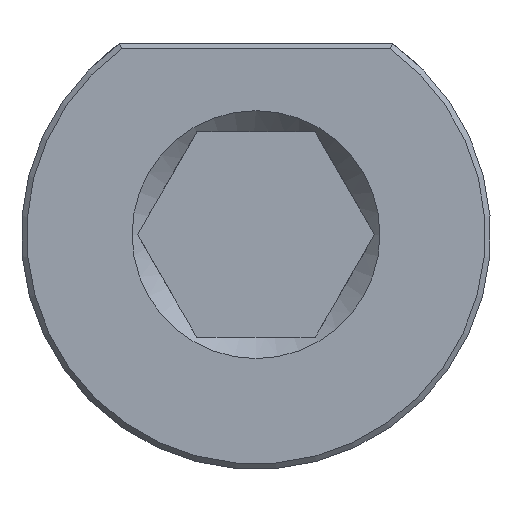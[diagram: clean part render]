
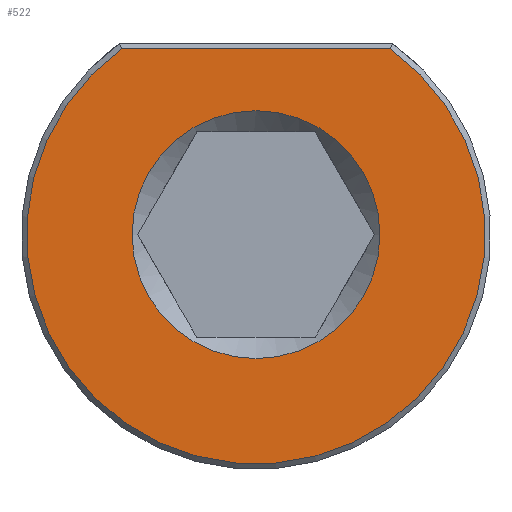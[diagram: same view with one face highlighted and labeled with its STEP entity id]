
A CAD part, front view. The second image highlights one B-rep face of the part: STEP entity #522.
In plain terms, the highlighted planar face has unit normal (0, -1, 0).
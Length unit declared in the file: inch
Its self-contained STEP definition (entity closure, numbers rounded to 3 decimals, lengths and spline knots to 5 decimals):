
#26=FACE_BOUND('',#156,.T.);
#39=LINE('',#805,#72);
#72=VECTOR('',#640,0.3937);
#105=PLANE('',#572);
#123=FACE_OUTER_BOUND('',#155,.T.);
#155=EDGE_LOOP('',(#372,#373));
#156=EDGE_LOOP('',(#374));
#199=CIRCLE('',#567,0.42);
#202=CIRCLE('',#573,0.227);
#227=VERTEX_POINT('',#789);
#228=VERTEX_POINT('',#790);
#238=VERTEX_POINT('',#838);
#278=EDGE_CURVE('',#227,#228,#199,.T.);
#283=EDGE_CURVE('',#228,#227,#39,.T.);
#292=EDGE_CURVE('',#238,#238,#202,.T.);
#372=ORIENTED_EDGE('',*,*,#278,.F.);
#373=ORIENTED_EDGE('',*,*,#283,.F.);
#374=ORIENTED_EDGE('',*,*,#292,.F.);
#522=ADVANCED_FACE('',(#123,#26),#105,.T.);
#567=AXIS2_PLACEMENT_3D('',#791,#633,#634);
#572=AXIS2_PLACEMENT_3D('',#837,#649,#650);
#573=AXIS2_PLACEMENT_3D('',#839,#651,#652);
#633=DIRECTION('center_axis',(0.,1.,0.));
#634=DIRECTION('ref_axis',(0.,0.,-1.));
#640=DIRECTION('',(1.,0.,0.));
#649=DIRECTION('center_axis',(0.,-1.,0.));
#650=DIRECTION('ref_axis',(0.,0.,-1.));
#651=DIRECTION('center_axis',(0.,-1.,0.));
#652=DIRECTION('ref_axis',(0.,0.,1.));
#789=CARTESIAN_POINT('',(0.24658,0.,0.34));
#790=CARTESIAN_POINT('',(-0.24658,0.,0.34));
#791=CARTESIAN_POINT('Origin',(0.,0.,0.));
#805=CARTESIAN_POINT('',(0.20968,0.,0.34));
#837=CARTESIAN_POINT('Origin',(0.,0.,-0.187));
#838=CARTESIAN_POINT('',(0.,0.,-0.227));
#839=CARTESIAN_POINT('Origin',(0.,0.,0.));
